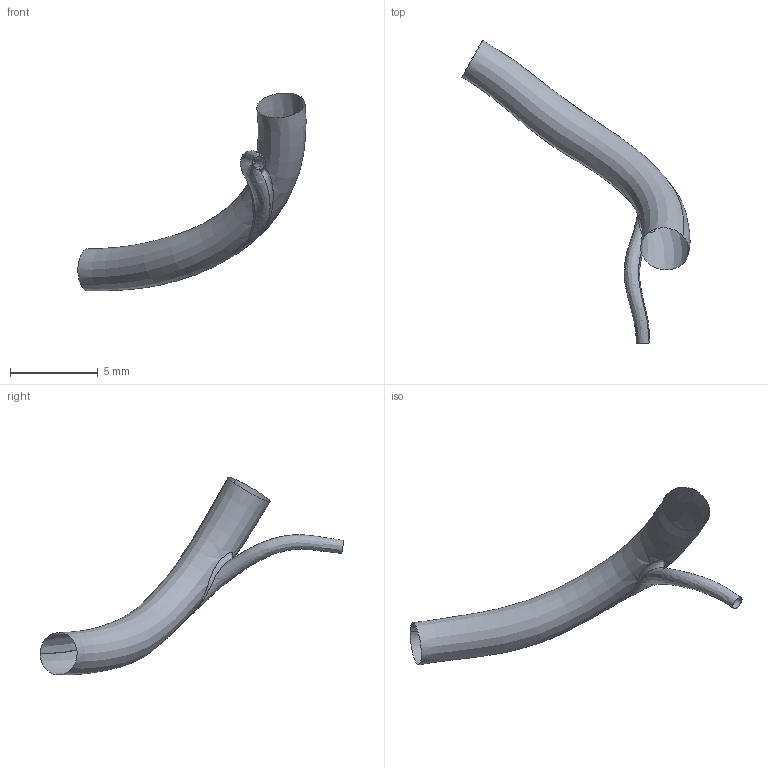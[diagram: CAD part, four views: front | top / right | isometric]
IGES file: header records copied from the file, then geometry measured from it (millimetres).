
Global section: file name: C:\Documents and Settings\Administrator\Desktop\FDA-Pig\Domestic RCA\Pig_000011\rv.es.igs; native system: Rhinoceros ( May 19 2006 ); preprocessor: Trout Lake IGES 012 May 19 2006; date: 111205.185714; units: centimetre
Bounding box: 13.03 x 17.34 x 11.29 mm (x, y, z)
Surface area: 179.9 mm2 (no closed solid volume)
Topology: 0 solids, 0 shells, 3 faces, 48 edges, 45 vertices
Faces by surface type: bspline 3
